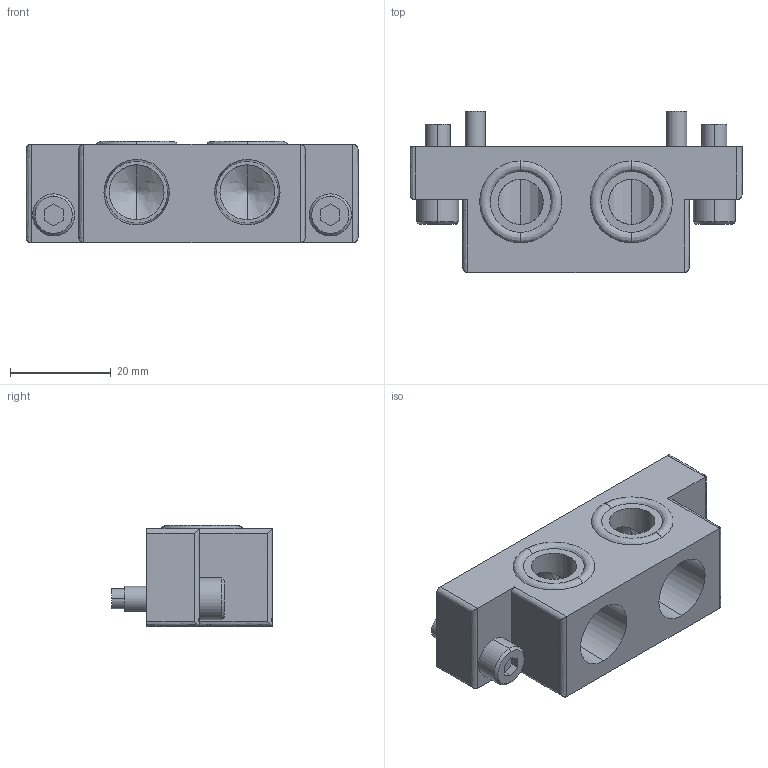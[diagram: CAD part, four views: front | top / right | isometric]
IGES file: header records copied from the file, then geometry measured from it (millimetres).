
Start section: 3D InterOp IGES (v. 2022 1.0.0), Spatial Corp. Copyright (c) 1999-2020.
Global section: file name: KHB-45~300HS-EP82_ver1.igs; native system: Spatial Corp.; preprocessor: 3D InterOp GENERIC/IGES 3.0; author: Noname; organization: Noname; date: 20260427.165004; units: millimetre
Bounding box: 66 x 32 x 20.1 mm (x, y, z)
Surface area: 9175.2 mm2 (no closed solid volume)
Topology: 0 solids, 0 shells, 103 faces, 476 edges, 472 vertices
Faces by surface type: revolution 61, extrusion 42
